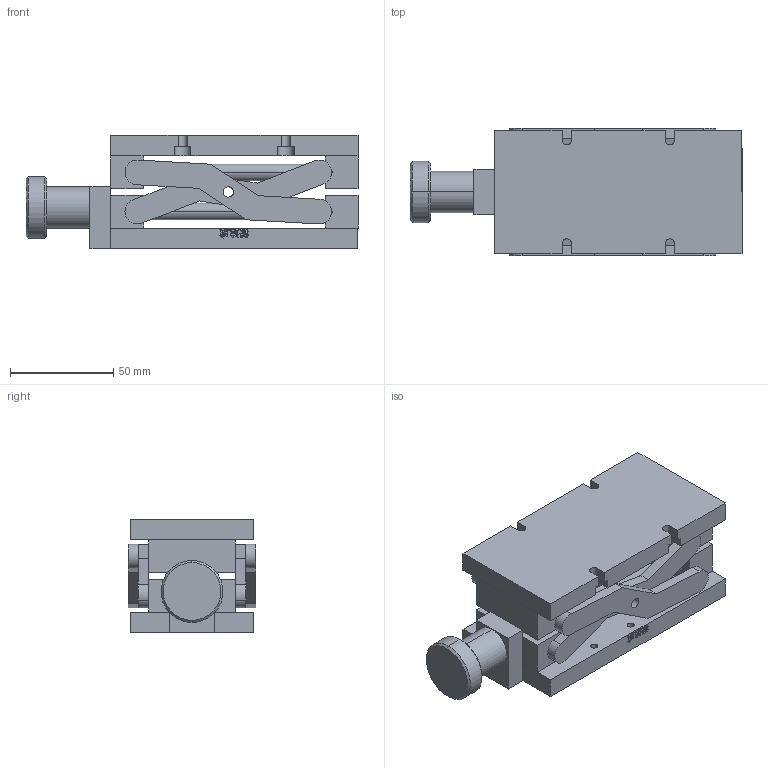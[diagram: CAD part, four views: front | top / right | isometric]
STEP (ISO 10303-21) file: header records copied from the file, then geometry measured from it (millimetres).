
FILE_DESCRIPTION (( 'STEP AP203' ), '1' );
FILE_NAME ('PT-SD72.STEP', '2022-09-04T09:15:49', ( '' ), ( '' ), 'SwSTEP 2.0', 'SolidWorks 2020', '' );
FILE_SCHEMA (( 'CONFIG_CONTROL_DESIGN' ));
Length unit declared in the file: millimetre
Products named in the file (7): 錨璃7^PT-SD72; 錨璃6^PT-SD72; 44; 錨璃9^PT-SD72; 錨璃8^PT-SD72; PT-SD72; 錨璃10^PT-SD72
Assembly tree (10 placements, depth 2):
  PT-SD72
    錨璃6^PT-SD72
    錨璃7^PT-SD72  x2
    44
    錨璃8^PT-SD72
    錨璃9^PT-SD72
    錨璃10^PT-SD72  x4
Bounding box: 161 x 62 x 55 mm (x, y, z)
Volume: 246381.3 mm3; surface area: 79610.7 mm2
Topology: 10 solids, 10 shells, 394 faces, 1031 edges, 666 vertices
Faces by surface type: plane 208, cylinder 82, bspline 76, cone 28
Entity records: 14053 total; most frequent: CARTESIAN_POINT 5458, ORIENTED_EDGE 1712, DIRECTION 1362, EDGE_CURVE 856, LINE 582, VECTOR 582, VERTEX_POINT 566, AXIS2_PLACEMENT_3D 390
